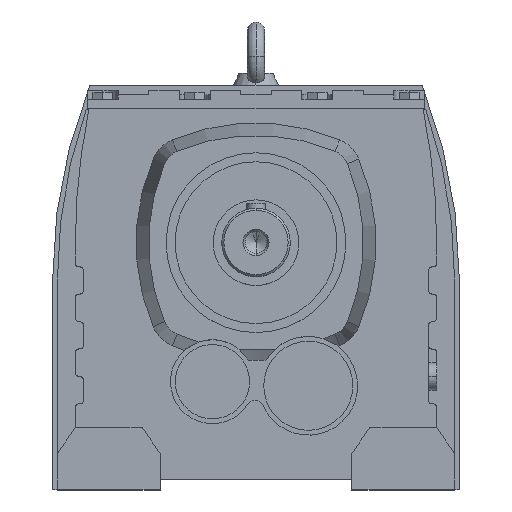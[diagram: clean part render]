
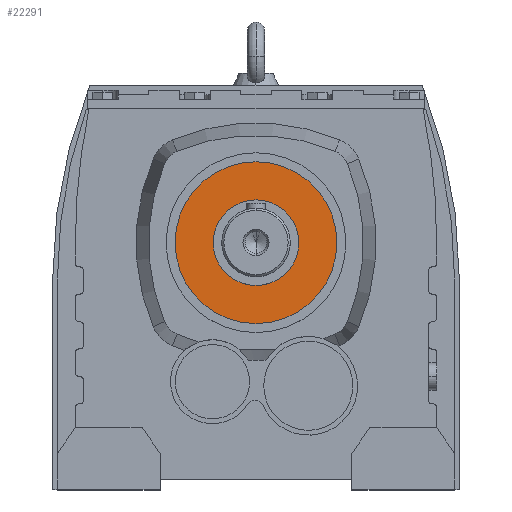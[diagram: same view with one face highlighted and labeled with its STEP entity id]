
A CAD part, top view. The second image highlights one B-rep face of the part: STEP entity #22291.
In plain terms, the highlighted planar face has unit normal (0, 0, 1).
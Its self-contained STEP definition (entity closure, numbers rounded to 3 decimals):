
#21160 = CYLINDRICAL_SURFACE('',#21161,59.063);
#21161 = AXIS2_PLACEMENT_3D('',#21162,#21163,#21164);
#21162 = CARTESIAN_POINT('',(0.,12.6,372.));
#21163 = DIRECTION('',(0.,0.,1.));
#21164 = DIRECTION('',(0.,-1.,0.));
#21190 = CYLINDRICAL_SURFACE('',#21191,59.063);
#21191 = AXIS2_PLACEMENT_3D('',#21192,#21193,#21194);
#21192 = CARTESIAN_POINT('',(0.,12.6,372.));
#21193 = DIRECTION('',(0.,0.,1.));
#21194 = DIRECTION('',(0.,-1.,0.));
#22170 = VERTEX_POINT('',#22171);
#22171 = CARTESIAN_POINT('',(0.,71.663,262.));
#22192 = VERTEX_POINT('',#22193);
#22193 = CARTESIAN_POINT('',(0.,-46.463,262.));
#22212 = EDGE_CURVE('',#22170,#22192,#22213,.T.);
#22213 = SURFACE_CURVE('',#22214,(#22219,#22225),.PCURVE_S1.);
#22214 = CIRCLE('',#22215,59.063);
#22215 = AXIS2_PLACEMENT_3D('',#22216,#22217,#22218);
#22216 = CARTESIAN_POINT('',(0.,12.6,262.));
#22217 = DIRECTION('',(0.,0.,-1.));
#22218 = DIRECTION('',(-1.,0.,0.));
#22219 = PCURVE('',#21160,#22220);
#22220 = DEFINITIONAL_REPRESENTATION('',(#22221),#22224);
#22221 = B_SPLINE_CURVE_WITH_KNOTS('',1,(#22222,#22223),.UNSPECIFIED.,
  .F.,.F.,(2,2),(1.571,4.712),
  .PIECEWISE_BEZIER_KNOTS.);
#22222 = CARTESIAN_POINT('',(3.142,-110.));
#22223 = CARTESIAN_POINT('',(0.,-110.));
#22224 = ( GEOMETRIC_REPRESENTATION_CONTEXT(2) 
PARAMETRIC_REPRESENTATION_CONTEXT() REPRESENTATION_CONTEXT('2D SPACE',''
  ) );
#22225 = PCURVE('',#22226,#22231);
#22226 = PLANE('',#22227);
#22227 = AXIS2_PLACEMENT_3D('',#22228,#22229,#22230);
#22228 = CARTESIAN_POINT('',(-25.478,3.078,262.));
#22229 = DIRECTION('',(0.,0.,-1.));
#22230 = DIRECTION('',(-1.,0.,0.));
#22231 = DEFINITIONAL_REPRESENTATION('',(#22232),#22236);
#22232 = CIRCLE('',#22233,59.063);
#22233 = AXIS2_PLACEMENT_2D('',#22234,#22235);
#22234 = CARTESIAN_POINT('',(-25.478,9.522));
#22235 = DIRECTION('',(1.,0.));
#22236 = ( GEOMETRIC_REPRESENTATION_CONTEXT(2) 
PARAMETRIC_REPRESENTATION_CONTEXT() REPRESENTATION_CONTEXT('2D SPACE',''
  ) );
#22241 = EDGE_CURVE('',#22192,#22170,#22242,.T.);
#22242 = SURFACE_CURVE('',#22243,(#22248,#22254),.PCURVE_S1.);
#22243 = CIRCLE('',#22244,59.063);
#22244 = AXIS2_PLACEMENT_3D('',#22245,#22246,#22247);
#22245 = CARTESIAN_POINT('',(0.,12.6,262.));
#22246 = DIRECTION('',(0.,0.,-1.));
#22247 = DIRECTION('',(-1.,0.,0.));
#22248 = PCURVE('',#21190,#22249);
#22249 = DEFINITIONAL_REPRESENTATION('',(#22250),#22253);
#22250 = B_SPLINE_CURVE_WITH_KNOTS('',1,(#22251,#22252),.UNSPECIFIED.,
  .F.,.F.,(2,2),(4.712,7.854),
  .PIECEWISE_BEZIER_KNOTS.);
#22251 = CARTESIAN_POINT('',(6.283,-110.));
#22252 = CARTESIAN_POINT('',(3.142,-110.));
#22253 = ( GEOMETRIC_REPRESENTATION_CONTEXT(2) 
PARAMETRIC_REPRESENTATION_CONTEXT() REPRESENTATION_CONTEXT('2D SPACE',''
  ) );
#22254 = PCURVE('',#22226,#22255);
#22255 = DEFINITIONAL_REPRESENTATION('',(#22256),#22260);
#22256 = CIRCLE('',#22257,59.063);
#22257 = AXIS2_PLACEMENT_2D('',#22258,#22259);
#22258 = CARTESIAN_POINT('',(-25.478,9.522));
#22259 = DIRECTION('',(1.,0.));
#22260 = ( GEOMETRIC_REPRESENTATION_CONTEXT(2) 
PARAMETRIC_REPRESENTATION_CONTEXT() REPRESENTATION_CONTEXT('2D SPACE',''
  ) );
#22291 = ADVANCED_FACE('',(#22292,#22296),#22226,.F.);
#22292 = FACE_BOUND('',#22293,.T.);
#22293 = EDGE_LOOP('',(#22294,#22295));
#22294 = ORIENTED_EDGE('',*,*,#22241,.F.);
#22295 = ORIENTED_EDGE('',*,*,#22212,.F.);
#22296 = FACE_BOUND('',#22297,.T.);
#22297 = EDGE_LOOP('',(#22298,#22332));
#22298 = ORIENTED_EDGE('',*,*,#22299,.F.);
#22299 = EDGE_CURVE('',#22300,#22302,#22304,.T.);
#22300 = VERTEX_POINT('',#22301);
#22301 = CARTESIAN_POINT('',(0.,-18.65,262.));
#22302 = VERTEX_POINT('',#22303);
#22303 = CARTESIAN_POINT('',(0.,43.85,262.));
#22304 = SURFACE_CURVE('',#22305,(#22310,#22321),.PCURVE_S1.);
#22305 = CIRCLE('',#22306,31.25);
#22306 = AXIS2_PLACEMENT_3D('',#22307,#22308,#22309);
#22307 = CARTESIAN_POINT('',(0.,12.6,262.));
#22308 = DIRECTION('',(0.,0.,1.));
#22309 = DIRECTION('',(-1.,0.,0.));
#22310 = PCURVE('',#22226,#22311);
#22311 = DEFINITIONAL_REPRESENTATION('',(#22312),#22320);
#22312 = ( BOUNDED_CURVE() B_SPLINE_CURVE(2,(#22313,#22314,#22315,#22316
    ,#22317,#22318,#22319),.UNSPECIFIED.,.F.,.F.) 
B_SPLINE_CURVE_WITH_KNOTS((1,2,2,2,2,1),(-2.094,0.,
    2.094,4.189,6.283,8.378),
.UNSPECIFIED.) CURVE() GEOMETRIC_REPRESENTATION_ITEM() 
RATIONAL_B_SPLINE_CURVE((1.,0.5,1.,0.5,1.,0.5,1.)) REPRESENTATION_ITEM(
  '') );
#22313 = CARTESIAN_POINT('',(5.772,9.522));
#22314 = CARTESIAN_POINT('',(5.772,-44.604));
#22315 = CARTESIAN_POINT('',(-41.103,-17.541));
#22316 = CARTESIAN_POINT('',(-87.978,9.522));
#22317 = CARTESIAN_POINT('',(-41.103,36.586));
#22318 = CARTESIAN_POINT('',(5.772,63.649));
#22319 = CARTESIAN_POINT('',(5.772,9.522));
#22320 = ( GEOMETRIC_REPRESENTATION_CONTEXT(2) 
PARAMETRIC_REPRESENTATION_CONTEXT() REPRESENTATION_CONTEXT('2D SPACE',''
  ) );
#22321 = PCURVE('',#22322,#22327);
#22322 = CYLINDRICAL_SURFACE('',#22323,31.25);
#22323 = AXIS2_PLACEMENT_3D('',#22324,#22325,#22326);
#22324 = CARTESIAN_POINT('',(0.,12.6,372.));
#22325 = DIRECTION('',(0.,0.,1.));
#22326 = DIRECTION('',(0.,-1.,0.));
#22327 = DEFINITIONAL_REPRESENTATION('',(#22328),#22331);
#22328 = B_SPLINE_CURVE_WITH_KNOTS('',1,(#22329,#22330),.UNSPECIFIED.,
  .F.,.F.,(2,2),(1.571,4.712),
  .PIECEWISE_BEZIER_KNOTS.);
#22329 = CARTESIAN_POINT('',(0.,-110.));
#22330 = CARTESIAN_POINT('',(3.142,-110.));
#22331 = ( GEOMETRIC_REPRESENTATION_CONTEXT(2) 
PARAMETRIC_REPRESENTATION_CONTEXT() REPRESENTATION_CONTEXT('2D SPACE',''
  ) );
#22332 = ORIENTED_EDGE('',*,*,#22333,.F.);
#22333 = EDGE_CURVE('',#22302,#22300,#22334,.T.);
#22334 = SURFACE_CURVE('',#22335,(#22340,#22351),.PCURVE_S1.);
#22335 = CIRCLE('',#22336,31.25);
#22336 = AXIS2_PLACEMENT_3D('',#22337,#22338,#22339);
#22337 = CARTESIAN_POINT('',(0.,12.6,262.));
#22338 = DIRECTION('',(0.,0.,1.));
#22339 = DIRECTION('',(-1.,0.,0.));
#22340 = PCURVE('',#22226,#22341);
#22341 = DEFINITIONAL_REPRESENTATION('',(#22342),#22350);
#22342 = ( BOUNDED_CURVE() B_SPLINE_CURVE(2,(#22343,#22344,#22345,#22346
    ,#22347,#22348,#22349),.UNSPECIFIED.,.F.,.F.) 
B_SPLINE_CURVE_WITH_KNOTS((1,2,2,2,2,1),(-2.094,0.,
    2.094,4.189,6.283,8.378),
.UNSPECIFIED.) CURVE() GEOMETRIC_REPRESENTATION_ITEM() 
RATIONAL_B_SPLINE_CURVE((1.,0.5,1.,0.5,1.,0.5,1.)) REPRESENTATION_ITEM(
  '') );
#22343 = CARTESIAN_POINT('',(5.772,9.522));
#22344 = CARTESIAN_POINT('',(5.772,-44.604));
#22345 = CARTESIAN_POINT('',(-41.103,-17.541));
#22346 = CARTESIAN_POINT('',(-87.978,9.522));
#22347 = CARTESIAN_POINT('',(-41.103,36.586));
#22348 = CARTESIAN_POINT('',(5.772,63.649));
#22349 = CARTESIAN_POINT('',(5.772,9.522));
#22350 = ( GEOMETRIC_REPRESENTATION_CONTEXT(2) 
PARAMETRIC_REPRESENTATION_CONTEXT() REPRESENTATION_CONTEXT('2D SPACE',''
  ) );
#22351 = PCURVE('',#22352,#22357);
#22352 = CYLINDRICAL_SURFACE('',#22353,31.25);
#22353 = AXIS2_PLACEMENT_3D('',#22354,#22355,#22356);
#22354 = CARTESIAN_POINT('',(0.,12.6,372.));
#22355 = DIRECTION('',(0.,0.,1.));
#22356 = DIRECTION('',(0.,-1.,0.));
#22357 = DEFINITIONAL_REPRESENTATION('',(#22358),#22361);
#22358 = B_SPLINE_CURVE_WITH_KNOTS('',1,(#22359,#22360),.UNSPECIFIED.,
  .F.,.F.,(2,2),(4.712,7.854),
  .PIECEWISE_BEZIER_KNOTS.);
#22359 = CARTESIAN_POINT('',(3.142,-110.));
#22360 = CARTESIAN_POINT('',(6.283,-110.));
#22361 = ( GEOMETRIC_REPRESENTATION_CONTEXT(2) 
PARAMETRIC_REPRESENTATION_CONTEXT() REPRESENTATION_CONTEXT('2D SPACE',''
  ) );
